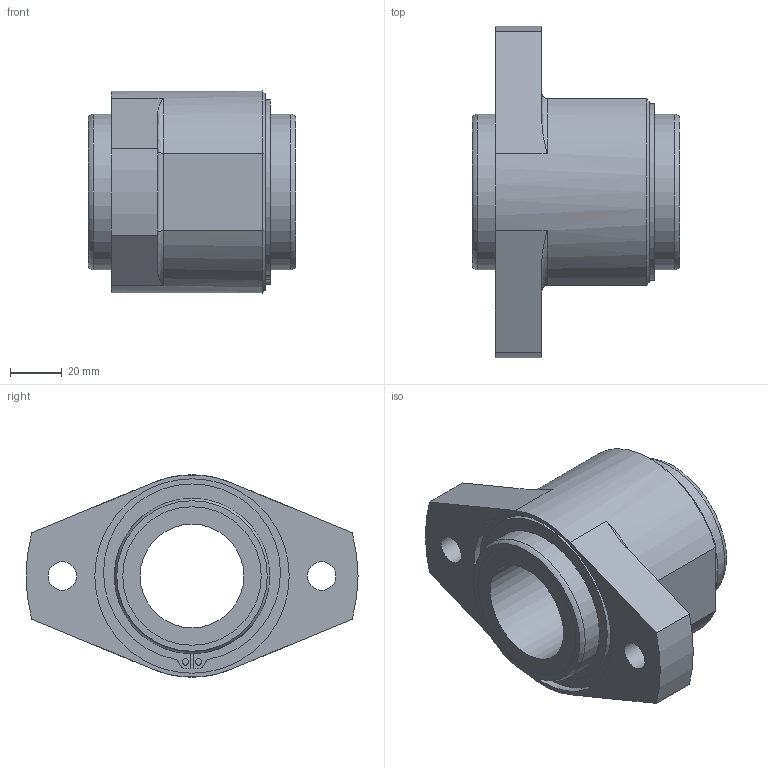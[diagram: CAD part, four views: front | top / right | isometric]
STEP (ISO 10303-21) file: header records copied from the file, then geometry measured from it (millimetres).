
FILE_DESCRIPTION((''),'2;1');
FILE_NAME('D:\製品 (図面)\カタログ用3D\シャフトブロック\LFH\LFH40.stp','2010-01-28T15:56:47',('Tsuchiya'),(''),'Autodesk Inventor 10','Autodesk Inventor 10','');
FILE_SCHEMA(('AUTOMOTIVE_DESIGN { 1 0 10303 214 1 1 1 1 }'));
Length unit declared in the file: millimetre
Products named in the file (1): LFH40
Bounding box: 80 x 128 x 78 mm (x, y, z)
Volume: 276347.6 mm3; surface area: 45000.9 mm2
Topology: 1 solids, 1 shells, 75 faces, 170 edges, 110 vertices
Faces by surface type: plane 26, cylinder 23, bspline 22, torus 2, cone 2
Full cylindrical faces by diameter (mm): 2.5 x2, 40 x1, 53.4 x2, 57 x2, 60 x2, 75 x1
Entity records: 2346 total; most frequent: CARTESIAN_POINT 734, DIRECTION 328, ORIENTED_EDGE 300, EDGE_CURVE 150, AXIS2_PLACEMENT_3D 136, EDGE_LOOP 112, VERTEX_POINT 108, CIRCLE 82
